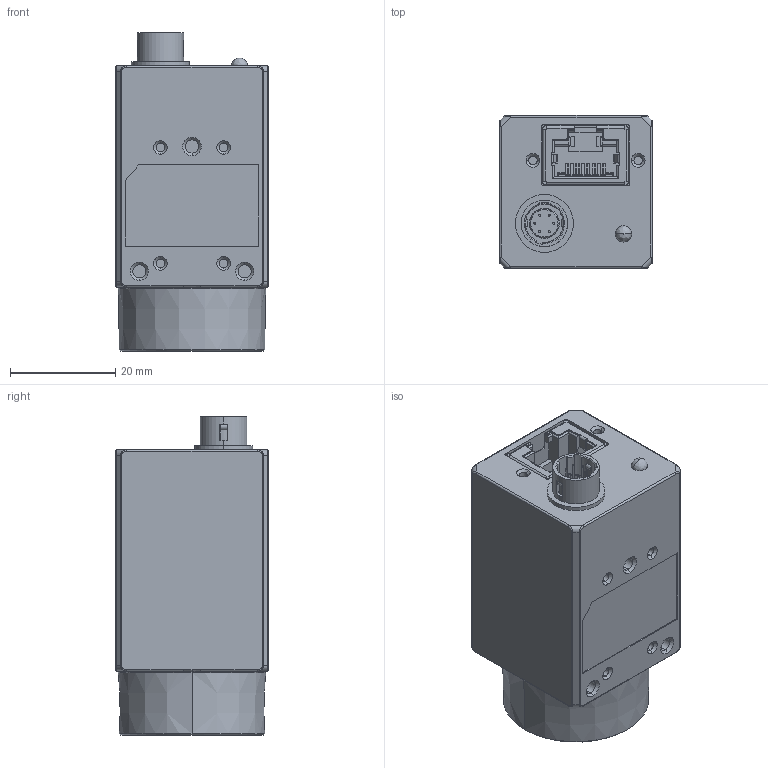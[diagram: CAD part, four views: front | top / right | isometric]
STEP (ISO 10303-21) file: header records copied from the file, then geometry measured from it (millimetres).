
FILE_DESCRIPTION((''),'2;1');
FILE_NAME('MV-600W-3D_2_1','2020-03-11T10:56:27',('wangyijun6'),(''),'CREO PARAMETRIC BY PTC INC, 2017260','CREO PARAMETRIC BY PTC INC, 2017260','');
FILE_SCHEMA(('CONFIG_CONTROL_DESIGN'));
Length unit declared in the file: millimetre
Products named in the file (1): MV-600W-3D_2_1
Bounding box: 29 x 29 x 60.48 mm (x, y, z)
Volume: 33983.8 mm3; surface area: 14245.1 mm2
Topology: 1 solids, 1 shells, 1196 faces, 3515 edges, 2292 vertices
Faces by surface type: plane 805, cylinder 322, bspline 36, cone 31, torus 2
Entity records: 41948 total; most frequent: CARTESIAN_POINT 10072, ORIENTED_EDGE 7030, DIRECTION 6217, EDGE_CURVE 3515, VECTOR 2541, LINE 2541, VERTEX_POINT 2292, AXIS2_PLACEMENT_3D 1838
